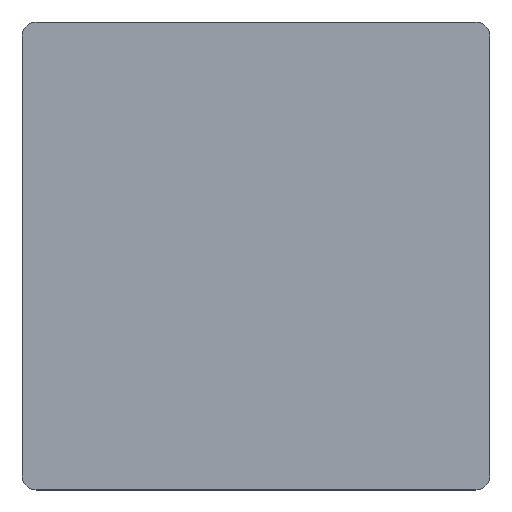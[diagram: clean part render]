
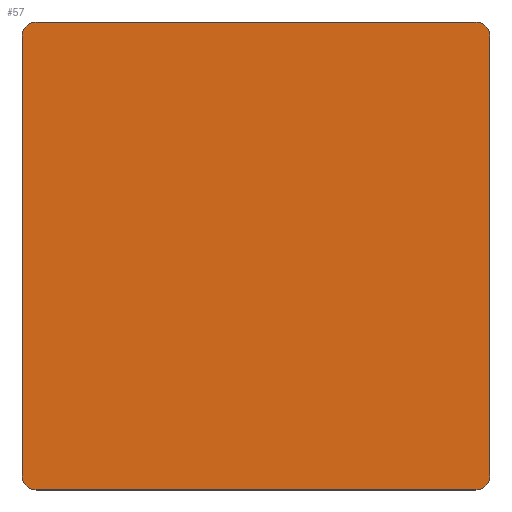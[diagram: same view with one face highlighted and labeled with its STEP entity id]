
A CAD part, top view. The second image highlights one B-rep face of the part: STEP entity #57.
In plain terms, the highlighted planar face has unit normal (0, 0, 1).
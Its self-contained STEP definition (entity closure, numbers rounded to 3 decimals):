
#21 = EDGE_CURVE('',#22,#24,#26,.T.);
#22 = VERTEX_POINT('',#23);
#23 = CARTESIAN_POINT('',(-66.,30.,41.5));
#24 = VERTEX_POINT('',#25);
#25 = CARTESIAN_POINT('',(-66.,154.,41.5));
#26 = LINE('',#27,#28);
#27 = CARTESIAN_POINT('',(-66.,26.,41.5));
#28 = VECTOR('',#29,1.);
#29 = DIRECTION('',(0.,1.,0.));
#57 = ADVANCED_FACE('',(#58),#119,.T.);
#58 = FACE_BOUND('',#59,.T.);
#59 = EDGE_LOOP('',(#60,#61,#70,#78,#87,#95,#104,#112));
#60 = ORIENTED_EDGE('',*,*,#21,.F.);
#61 = ORIENTED_EDGE('',*,*,#62,.T.);
#62 = EDGE_CURVE('',#22,#63,#65,.T.);
#63 = VERTEX_POINT('',#64);
#64 = CARTESIAN_POINT('',(-62.,26.,41.5));
#65 = CIRCLE('',#66,4.);
#66 = AXIS2_PLACEMENT_3D('',#67,#68,#69);
#67 = CARTESIAN_POINT('',(-62.,30.,41.5));
#68 = DIRECTION('',(-0.,0.,1.));
#69 = DIRECTION('',(0.,-1.,0.));
#70 = ORIENTED_EDGE('',*,*,#71,.T.);
#71 = EDGE_CURVE('',#63,#72,#74,.T.);
#72 = VERTEX_POINT('',#73);
#73 = CARTESIAN_POINT('',(62.,26.,41.5));
#74 = LINE('',#75,#76);
#75 = CARTESIAN_POINT('',(-66.,26.,41.5));
#76 = VECTOR('',#77,1.);
#77 = DIRECTION('',(1.,0.,0.));
#78 = ORIENTED_EDGE('',*,*,#79,.F.);
#79 = EDGE_CURVE('',#80,#72,#82,.T.);
#80 = VERTEX_POINT('',#81);
#81 = CARTESIAN_POINT('',(66.,30.,41.5));
#82 = CIRCLE('',#83,4.);
#83 = AXIS2_PLACEMENT_3D('',#84,#85,#86);
#84 = CARTESIAN_POINT('',(62.,30.,41.5));
#85 = DIRECTION('',(-0.,-0.,-1.));
#86 = DIRECTION('',(0.,-1.,0.));
#87 = ORIENTED_EDGE('',*,*,#88,.T.);
#88 = EDGE_CURVE('',#80,#89,#91,.T.);
#89 = VERTEX_POINT('',#90);
#90 = CARTESIAN_POINT('',(66.,154.,41.5));
#91 = LINE('',#92,#93);
#92 = CARTESIAN_POINT('',(66.,26.,41.5));
#93 = VECTOR('',#94,1.);
#94 = DIRECTION('',(0.,1.,0.));
#95 = ORIENTED_EDGE('',*,*,#96,.T.);
#96 = EDGE_CURVE('',#89,#97,#99,.T.);
#97 = VERTEX_POINT('',#98);
#98 = CARTESIAN_POINT('',(62.,158.,41.5));
#99 = CIRCLE('',#100,4.);
#100 = AXIS2_PLACEMENT_3D('',#101,#102,#103);
#101 = CARTESIAN_POINT('',(62.,154.,41.5));
#102 = DIRECTION('',(-0.,0.,1.));
#103 = DIRECTION('',(0.,-1.,0.));
#104 = ORIENTED_EDGE('',*,*,#105,.F.);
#105 = EDGE_CURVE('',#106,#97,#108,.T.);
#106 = VERTEX_POINT('',#107);
#107 = CARTESIAN_POINT('',(-62.,158.,41.5));
#108 = LINE('',#109,#110);
#109 = CARTESIAN_POINT('',(-66.,158.,41.5));
#110 = VECTOR('',#111,1.);
#111 = DIRECTION('',(1.,0.,0.));
#112 = ORIENTED_EDGE('',*,*,#113,.F.);
#113 = EDGE_CURVE('',#24,#106,#114,.T.);
#114 = CIRCLE('',#115,4.);
#115 = AXIS2_PLACEMENT_3D('',#116,#117,#118);
#116 = CARTESIAN_POINT('',(-62.,154.,41.5));
#117 = DIRECTION('',(-0.,-0.,-1.));
#118 = DIRECTION('',(0.,-1.,0.));
#119 = PLANE('',#120);
#120 = AXIS2_PLACEMENT_3D('',#121,#122,#123);
#121 = CARTESIAN_POINT('',(-66.,26.,41.5));
#122 = DIRECTION('',(0.,0.,1.));
#123 = DIRECTION('',(1.,0.,0.));
